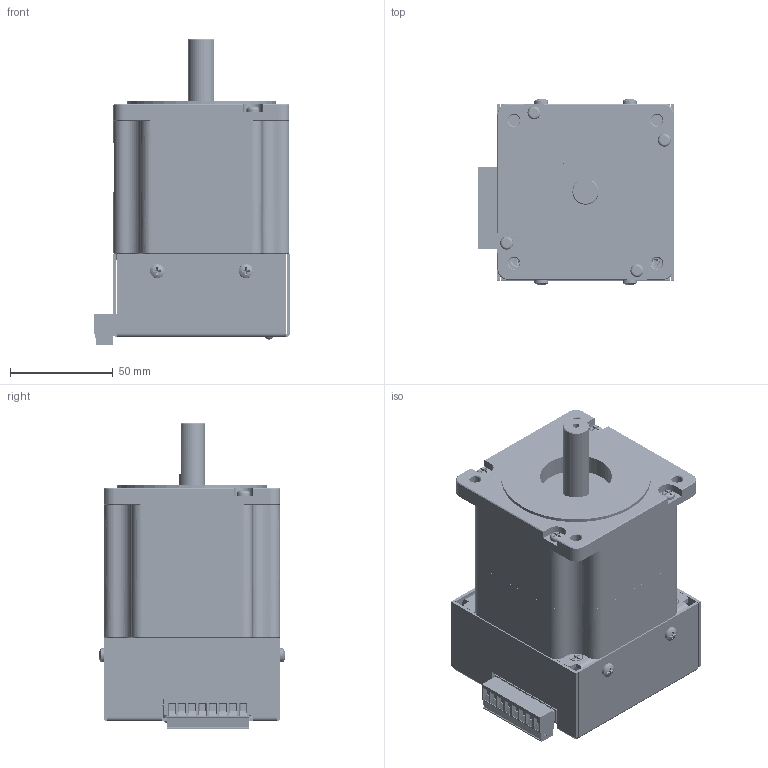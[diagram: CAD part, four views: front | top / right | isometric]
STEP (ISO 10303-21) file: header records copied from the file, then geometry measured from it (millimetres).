
FILE_DESCRIPTION (( 'STEP AP214' ), '1' );
FILE_NAME ('BLY34MDA1S.STEP', '2015-09-16T15:39:27', ( '' ), ( '' ), 'SwSTEP 2.0', 'SolidWorks 2015', '' );
FILE_SCHEMA (( 'AUTOMOTIVE_DESIGN' ));
Length unit declared in the file: inch
Products named in the file (26): RES-3W-.05; CON-B5B-EH-A; 1754562; 1757527; Cover, BLY34MDA Series; CAP-0223; SUB-AA5275A-1; AA5275APCB; 11pan cross head_ai_CR-PHMS 0.112-40x0.25x0.25-S; socket button head cap screw_ai_SBHCSCREW 0.138-32x0.375-HX-S; WSH-KE3049; flat head screw_ai_CR-FHMS 0.138-32x0.375x0.375-S; TRS-IRFB4710PBF; Base PLate, BLY34MDA Series; VRG-TL783CKC; BLY34MDAXS Series_BLY341D; TPE-661000751674-.75X2.00; 11pan cross head_ai_CR-PHMS 0.138-32x0.25x0.25-S; BLY34MDA1S; Standoff, 6-32x.250_STD-6321.0H; 11pan cross head_ai_CR-PHMS 0.138-32x0.5x0.5-S; Heat Sink, MDC150, MDC151, MDC155-050301; Standoff, 6-32x.250, ROUND_6-32 x .250; LED-SPR5731_LED-SPR5731-RED; LED-SPR5731_LED-SPR5731-GRN; LED-LTM Series_LED-LTM150
Assembly tree (59 placements, depth 3):
  BLY34MDA1S
    BLY34MDAXS Series_BLY341D
    Base PLate, BLY34MDA Series
    flat head screw_ai_CR-FHMS 0.138-32x0.375x0.375-S  x4
    socket button head cap screw_ai_SBHCSCREW 0.138-32x0.375-HX-S  x4
    SUB-AA5275A-1
      AA5275APCB
      CAP-0223  x2
      1757527
      CON-B5B-EH-A
      RES-3W-.05
      LED-LTM Series_LED-LTM150  x2
      LED-SPR5731_LED-SPR5731-GRN
      LED-SPR5731_LED-SPR5731-RED
      Standoff, 6-32x.250, ROUND_6-32 x .250  x2
      Heat Sink, MDC150, MDC151, MDC155-050301
      11pan cross head_ai_CR-PHMS 0.138-32x0.5x0.5-S  x2
      Standoff, 6-32x.250_STD-6321.0H  x2
      11pan cross head_ai_CR-PHMS 0.138-32x0.25x0.25-S  x2
      TPE-661000751674-.75X2.00  x2
      VRG-TL783CKC
      TRS-IRFB4710PBF  x6
      WSH-KE3049  x7
      11pan cross head_ai_CR-PHMS 0.112-40x0.25x0.25-S  x7
    Cover, BLY34MDA Series
    11pan cross head_ai_CR-PHMS 0.138-32x0.25x0.25-S  x4
    1754562
Bounding box: 95.36 x 91.01 x 149.33 mm (x, y, z)
Volume: 579042.2 mm3; surface area: 141212.6 mm2
Topology: 58 solids, 58 shells, 5552 faces, 13996 edges, 8866 vertices
Faces by surface type: plane 2752, cylinder 1155, cone 1083, bspline 468, torus 54, sphere 40
Entity records: 173682 total; most frequent: CARTESIAN_POINT 44820, ORIENTED_EDGE 18410, DIRECTION 16526, EDGE_CURVE 9205, VECTOR 6212, LINE 6212, VERTEX_POINT 5887, AXIS2_PLACEMENT_3D 5157
